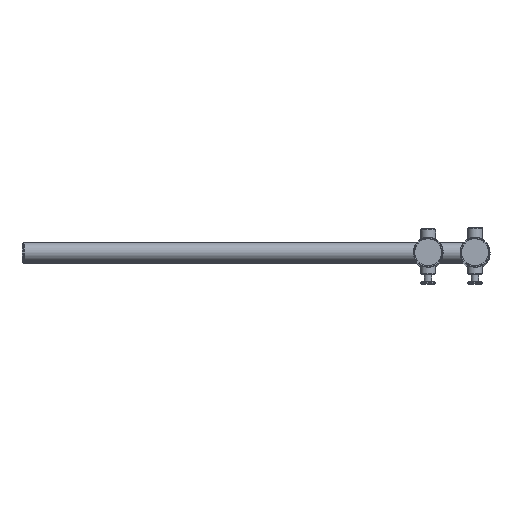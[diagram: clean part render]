
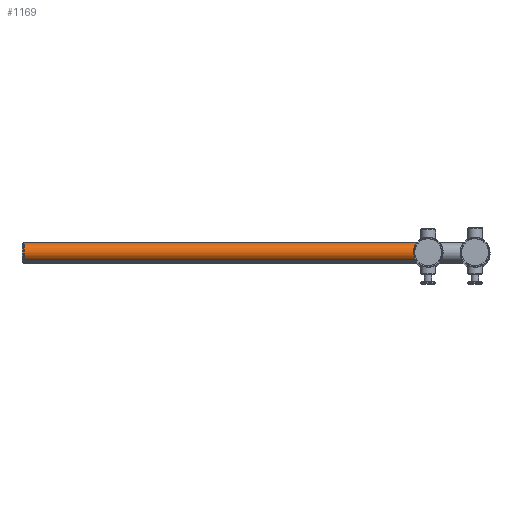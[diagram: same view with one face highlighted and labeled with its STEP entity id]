
A CAD part, top view. The second image highlights one B-rep face of the part: STEP entity #1169.
In plain terms, the highlighted cylindrical face has radius 10 mm (diameter 20 mm), a full revolution.
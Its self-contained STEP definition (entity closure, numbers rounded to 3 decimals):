
#248=CIRCLE('',#1548,10.);
#249=CIRCLE('',#1549,10.);
#396=ORIENTED_EDGE('',*,*,#536,.T.);
#397=ORIENTED_EDGE('',*,*,#537,.F.);
#536=EDGE_CURVE('',#634,#634,#248,.T.);
#537=EDGE_CURVE('',#635,#635,#249,.T.);
#634=VERTEX_POINT('',#2891);
#635=VERTEX_POINT('',#2893);
#824=EDGE_LOOP('',(#396));
#825=EDGE_LOOP('',(#397));
#1012=FACE_BOUND('',#824,.T.);
#1013=FACE_BOUND('',#825,.T.);
#1114=CYLINDRICAL_SURFACE('',#1547,10.);
#1169=ADVANCED_FACE('',(#1012,#1013),#1114,.T.);
#1547=AXIS2_PLACEMENT_3D('',#2889,#1792,#1793);
#1548=AXIS2_PLACEMENT_3D('',#2890,#1794,#1795);
#1549=AXIS2_PLACEMENT_3D('',#2892,#1796,#1797);
#1792=DIRECTION('',(-1.,0.,0.));
#1793=DIRECTION('',(0.,0.,1.));
#1794=DIRECTION('',(-1.,0.,0.));
#1795=DIRECTION('',(0.,1.,0.));
#1796=DIRECTION('',(-1.,0.,0.));
#1797=DIRECTION('',(0.,1.,0.));
#2889=CARTESIAN_POINT('',(211.25,0.,0.));
#2890=CARTESIAN_POINT('',(211.25,0.,0.));
#2891=CARTESIAN_POINT('',(211.25,10.,0.));
#2892=CARTESIAN_POINT('',(-211.25,0.,0.));
#2893=CARTESIAN_POINT('',(-211.25,10.,0.));
